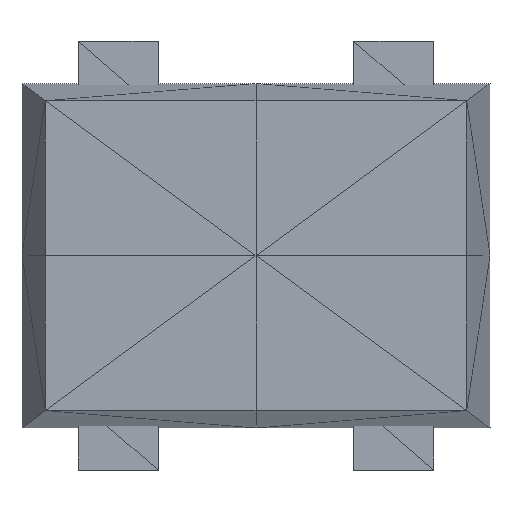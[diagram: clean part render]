
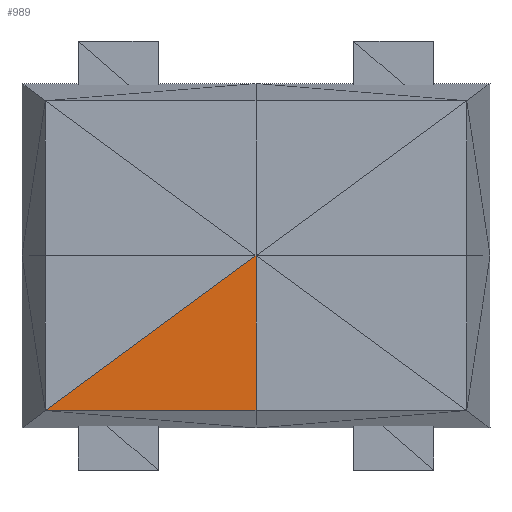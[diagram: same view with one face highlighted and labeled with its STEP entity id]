
A CAD part, top view. The second image highlights one B-rep face of the part: STEP entity #989.
In plain terms, the highlighted planar face has unit normal (0, 0, 1).
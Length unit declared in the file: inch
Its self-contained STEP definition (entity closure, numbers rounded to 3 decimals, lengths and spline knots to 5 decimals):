
#283=CARTESIAN_POINT('',(-0.153,-0.11253,0.16998));
#284=VERTEX_POINT('',#283);
#774=CARTESIAN_POINT('',(0.,-0.11253,0.16998));
#775=VERTEX_POINT('',#774);
#803=CARTESIAN_POINT('',(-0.153,-0.11254,0.16998));
#804=DIRECTION('',(1.,0.,-0.));
#805=VECTOR('',#804,0.153);
#806=LINE('',#803,#805);
#807=EDGE_CURVE('',#284,#775,#806,.T.);
#876=CARTESIAN_POINT('',(0.,-0.00004,0.17));
#877=VERTEX_POINT('',#876);
#965=CARTESIAN_POINT('',(-0.153,-0.11254,0.16998));
#966=DIRECTION('',(0.806,0.592,0.));
#967=VECTOR('',#966,0.18991);
#968=LINE('',#965,#967);
#969=EDGE_CURVE('',#284,#877,#968,.T.);
#974=CARTESIAN_POINT('',(0.,-0.00004,0.17));
#975=DIRECTION('',(0.,0.,1.));
#976=DIRECTION('',(1.,0.,0.));
#977=AXIS2_PLACEMENT_3D('',#974,#975,#976);
#978=PLANE('',#977);
#979=ORIENTED_EDGE('',*,*,#969,.F.);
#980=ORIENTED_EDGE('',*,*,#807,.T.);
#981=CARTESIAN_POINT('',(0.,-0.11254,0.16998));
#982=DIRECTION('',(0.,1.,0.));
#983=VECTOR('',#982,0.1125);
#984=LINE('',#981,#983);
#985=EDGE_CURVE('',#775,#877,#984,.T.);
#986=ORIENTED_EDGE('',*,*,#985,.T.);
#987=EDGE_LOOP('',(#979,#980,#986));
#988=FACE_BOUND('',#987,.T.);
#989=ADVANCED_FACE('',(#988),#978,.T.);
